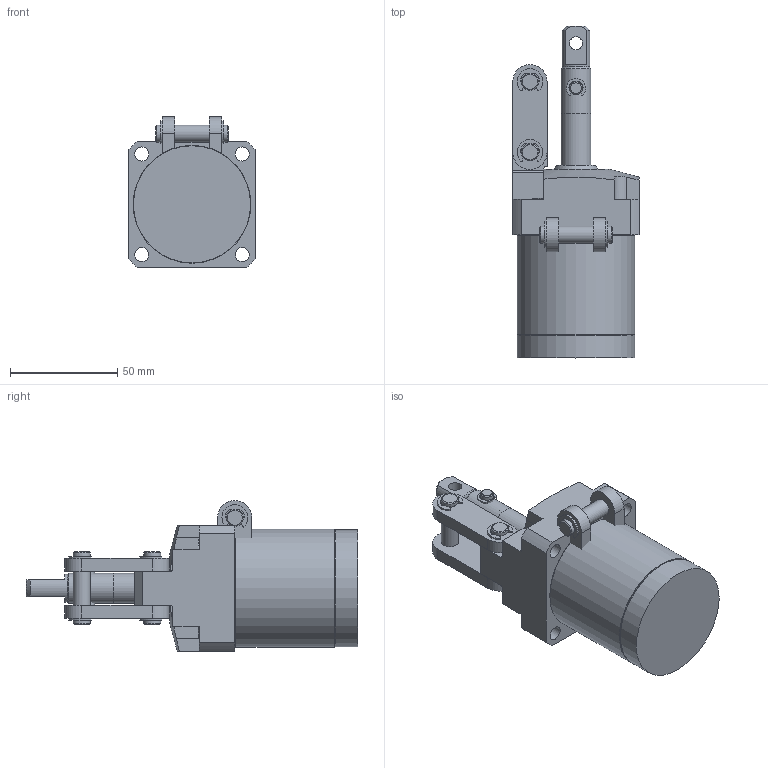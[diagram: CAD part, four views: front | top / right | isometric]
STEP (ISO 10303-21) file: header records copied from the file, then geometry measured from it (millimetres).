
FILE_DESCRIPTION( ( '' ), '1' );
FILE_NAME( 'W:/Catalogue/JL5H/JL5H34-25K/JL5H34-25K.stp', '2008-05-26T01:32:47', ( '機械事業部産業機器グループ' ), ( '豊和工業株式会社' ), 'XStep 1.0', ' ', ' ' );
FILE_SCHEMA( ( 'CONFIG_CONTROL_DESIGN' ) );
Length unit declared in the file: millimetre
Products named in the file (5): Assem1; 1; 2; 3; 4
Bounding box: 59 x 155 x 70.5 mm (x, y, z)
Volume: 447627 mm3; surface area: 95946.7 mm2
Topology: 8 solids, 12 shells, 524 faces, 1356 edges, 884 vertices
Faces by surface type: plane 268, cylinder 214, cone 40, torus 2
Full cylindrical faces by diameter (mm): 2 x2, 4 x4, 4.2 x2, 6 x16, 6.6 x8, 8 x14, 8.3 x4, 13 x2, 14 x4, 16 x2, 20 x2, 24 x4, 34 x4, 54 x4, 54.7 x2, 55 x2
Entity records: 7972 total; most frequent: CARTESIAN_POINT 1423, DIRECTION 1394, ORIENTED_EDGE 1204, EDGE_CURVE 602, AXIS2_PLACEMENT_3D 548, VERTEX_POINT 425, EDGE_LOOP 356, FACE_OUTER_BOUND 301
